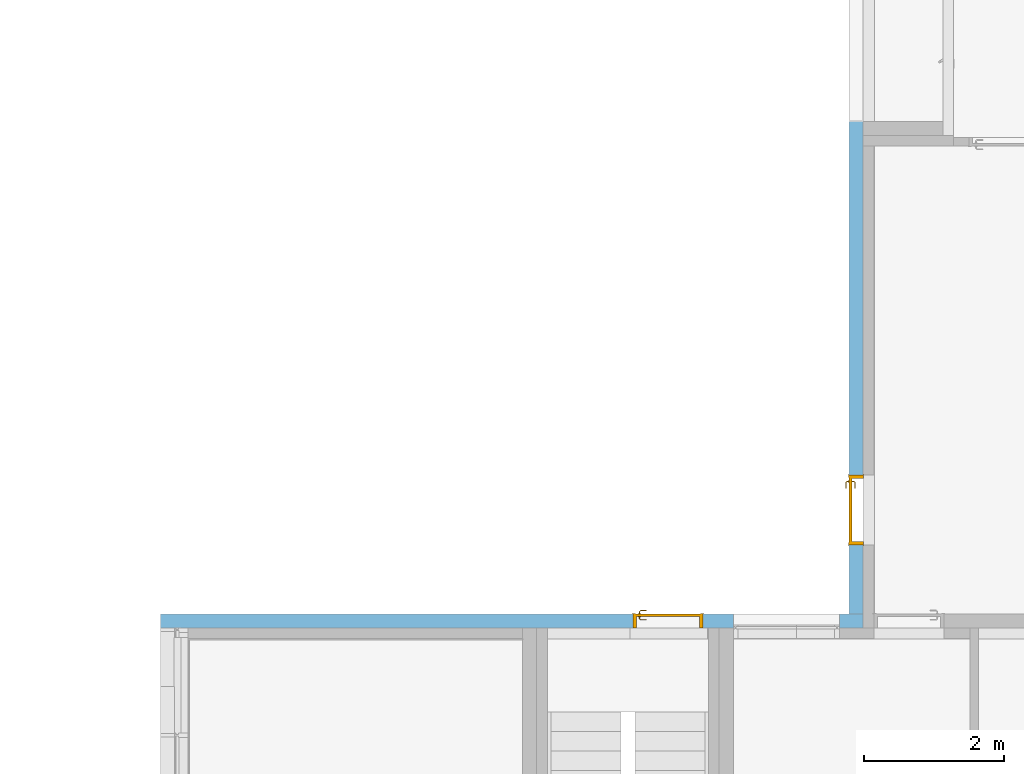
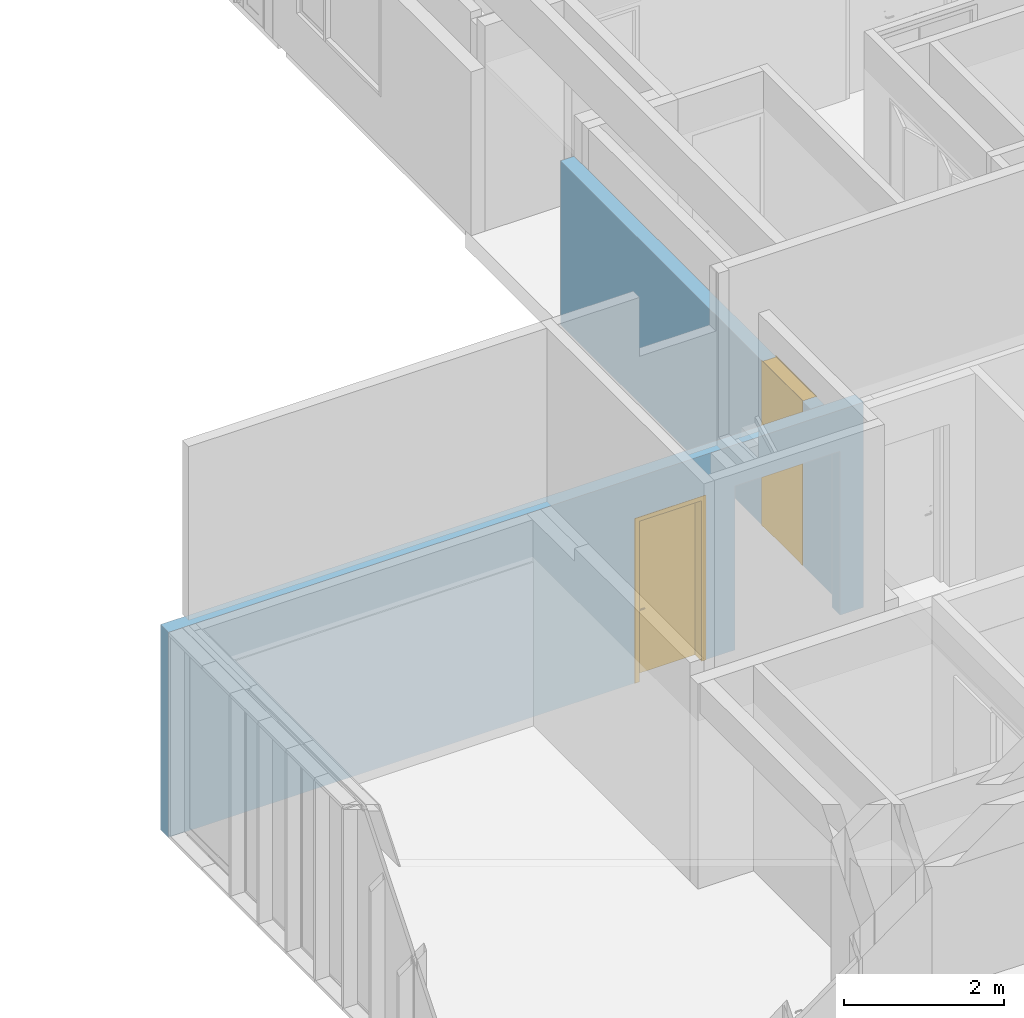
# One storey, part 187 of 240: 2 doors, 6 openings, plus 2 elements that do not belong to this part.
"""IFC2X3 building model written with IfcOpenShell, lengths in centimetres."""

from ifc_helpers import new_model, entity, si_unit, converted_unit, derived_unit, direction, frame, frame_2d, origin, place, context, subcontext, project, spatial, rectangle, extrude, faceted_brep, source, transform, mapped, material, material_list, layer, layer_set, layer_usage, type_object, type_shapes, element, fill, save


model = new_model("IFC2X3")

# Units and contexts
model_context = context("Model", 3, precision=0.001, world=origin(), true_north=direction((6.12303176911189e-17, 1.0)))
body_context = subcontext(model_context, "Body", "Model", "MODEL_VIEW")
ifc_project = project(units=[si_unit("LENGTHUNIT", "METRE", prefix="CENTI"), si_unit("AREAUNIT", "SQUARE_METRE"), si_unit("VOLUMEUNIT", "CUBIC_METRE"), converted_unit("PLANEANGLEUNIT", "DEGREE", entity("IfcRatioMeasure", 0.0174532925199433), si_unit("PLANEANGLEUNIT", "RADIAN"), dimensions=[0, 0, 0, 0, 0, 0, 0]), si_unit("MASSUNIT", "GRAM", prefix="KILO"), derived_unit("MASSDENSITYUNIT", [(si_unit("MASSUNIT", "GRAM", prefix="KILO"), 1), (si_unit("LENGTHUNIT", "METRE"), -3)]), si_unit("TIMEUNIT", "SECOND"), si_unit("FREQUENCYUNIT", "HERTZ"), si_unit("THERMODYNAMICTEMPERATUREUNIT", "DEGREE_CELSIUS"), derived_unit("THERMALTRANSMITTANCEUNIT", [(si_unit("MASSUNIT", "GRAM", prefix="KILO"), 1), (si_unit("THERMODYNAMICTEMPERATUREUNIT", "KELVIN"), -1), (si_unit("TIMEUNIT", "SECOND"), -3)]), derived_unit("VOLUMETRICFLOWRATEUNIT", [(si_unit("LENGTHUNIT", "METRE"), 3), (si_unit("TIMEUNIT", "SECOND"), -1)]), si_unit("ELECTRICCURRENTUNIT", "AMPERE"), si_unit("ELECTRICVOLTAGEUNIT", "VOLT"), si_unit("POWERUNIT", "WATT"), si_unit("FORCEUNIT", "NEWTON", prefix="KILO"), si_unit("ILLUMINANCEUNIT", "LUX"), si_unit("LUMINOUSFLUXUNIT", "LUMEN"), si_unit("LUMINOUSINTENSITYUNIT", "CANDELA"), derived_unit("USERDEFINED", [(si_unit("MASSUNIT", "GRAM", prefix="KILO"), -1), (si_unit("LENGTHUNIT", "METRE"), -2), (si_unit("TIMEUNIT", "SECOND"), 3), (si_unit("LUMINOUSFLUXUNIT", "LUMEN"), 1)]), derived_unit("LINEARVELOCITYUNIT", [(si_unit("LENGTHUNIT", "METRE"), 1), (si_unit("TIMEUNIT", "SECOND"), -1)]), si_unit("PRESSUREUNIT", "PASCAL"), derived_unit("USERDEFINED", [(si_unit("LENGTHUNIT", "METRE"), -2), (si_unit("MASSUNIT", "GRAM", prefix="KILO"), 1), (si_unit("TIMEUNIT", "SECOND"), -2)])], contexts=[model_context])

# Site, building, storey
site_placement = place(None, frame((-2781.94577612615, 7442.24238424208, 0.0)))
site = spatial("IfcSite", under=ifc_project, at=site_placement, Name="Default", CompositionType="ELEMENT")
building_placement = place(site_placement, origin())
building = spatial("IfcBuilding", under=site, at=building_placement, CompositionType="ELEMENT")
storey_placement = place(building_placement, origin())
storey = spatial("IfcBuildingStorey", under=building, at=storey_placement, Name="N00 - COO", CompositionType="ELEMENT", Elevation=0.0)

# Wall, openings, door
ifc_material_1 = material(Name="01 - Maçonnerie")
ifc_layer = layer(ifc_material_1, 20.0)
ifc_layer_set = layer_set([ifc_layer], Name="Mur de base:04 - Structure - béton - 20cm")
ifc_layer_usage_1 = layer_usage(ifc_layer_set, "AXIS2", "NEGATIVE", 10.0)
wall_type = type_object("IfcWallType", Name="Mur de base:04 - Structure - béton - 20cm", PredefinedType="STANDARD", material=ifc_layer_set)
wall_1_placement = place(building_placement, frame((-10891.6130476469, -2649.77903364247, 0.0), z_axis=(0.0, 0.0, 1.0), x_axis=(0.0, -1.0, 0.0)))
wall_1 = element("IfcWallStandardCase", 1, at=wall_1_placement, inside=storey, type_object=wall_type, material=ifc_layer_usage_1, Name="Mur de base:04 - Structure - béton - 20cm", ObjectType="Mur de base:04 - Structure - béton - 20cm", context=body_context, shape_type="SweptSolid", body=[
    extrude(rectangle(XDim=702.742772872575, YDim=19.9999999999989, at=frame_2d((351.371386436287, -4.04121180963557e-13), x_axis=(-1.0, 0.0))), origin(), (0.0, 0.0, 1.0), 249.999999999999),
])
opening_1_placement = place(wall_1_placement, origin())
element("IfcOpeningElement", 2, at=opening_1_placement, cuts=wall_1, Name="Mur de base:04 - Structure - béton - 20cm", ObjectType="Opening", context=body_context, shape_type="SweptSolid", body=[
    extrude(rectangle(XDim=175.0, YDim=144.0, at=frame_2d((-2.8421709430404e-14, 0.0), x_axis=(1.0, 0.0))), frame((-519.7, -25.2400000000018, 162.5), z_axis=(0.0, 1.0, 0.0), x_axis=(0.0, 0.0, 1.0)), (0.0, 0.0, 1.0), 50.4800000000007),
])
opening_2_placement = place(wall_1_placement, origin())
element("IfcOpeningElement", 3, at=opening_2_placement, cuts=wall_1, Name="Mur de base:04 - Structure - béton - 20cm", ObjectType="Opening", context=body_context, shape_type="SweptSolid", body=[
    extrude(rectangle(XDim=265.0, YDim=149.999999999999, at=frame_2d((0.0, -1.06581410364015e-13), x_axis=(1.0, 0.0))), frame((-814.739516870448, -10.1000000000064, 117.5), z_axis=(0.0, 1.0, 0.0), x_axis=(0.0, 0.0, -1.0)), (0.0, 0.0, 1.0), 61.2999999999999),
])
opening_3_placement = place(wall_1_placement, origin())
element("IfcOpeningElement", 4, at=opening_3_placement, cuts=wall_1, Name="Mur de base:04 - Structure - béton - 20cm", ObjectType="Opening", context=body_context, shape_type="SweptSolid", body=[
    extrude(rectangle(XDim=175.0, YDim=68.0000000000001, at=frame_2d((-2.1316282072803e-14, 0.0), x_axis=(1.0, 0.0))), frame((-625.699999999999, -142.400000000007, 162.5), z_axis=(0.0, 1.0, 0.0), x_axis=(0.0, 0.0, 1.0)), (0.0, 0.0, 1.0), 304.8),
])
opening_4_placement = place(wall_1_placement, frame((604.492546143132, 10.0, 0.0)))
opening_4 = element("IfcOpeningElement", 5, at=opening_4_placement, cuts=wall_1, Name="Int. Simple:PP EXT - Local poubelle  (0.93m x 2.50m):1", ObjectType="Opening", context=body_context, shape_type="SweptSolid", body=[
    extrude(rectangle(XDim=250.000000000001, YDim=99.9999999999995, at=frame_2d((125.000000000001, 49.9999999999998), x_axis=(1.0, 0.0))), frame((0.0, 0.0, 0.0), z_axis=(0.0, -1.0, 0.0), x_axis=(0.0, 0.0, 1.0)), (0.0, 0.0, 1.0), 20.0),
])
ifc_material_2 = material(Name="Finition Peinture - Blanc satiné")
ifc_material_3 = material(Name="Aluminium")
ifc_material_list_1 = material_list([ifc_material_2, ifc_material_3])
ifc_material_list_2 = material_list([ifc_material_2, ifc_material_3])
door_style_1 = type_object("IfcDoorStyle", Name="PP EXT - Local poubelle  (0.93m x 2.50m)", ConstructionType="NOTDEFINED", OperationType="SINGLE_SWING_LEFT", ParameterTakesPrecedence=False, Sizeable=False, material=ifc_material_list_2)
shared_shape_1 = source(origin(), body_context, "Body", "Brep", [
    faceted_brep([(10.5352761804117, -0.500000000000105, 86.6003983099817), (11.5000000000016, -0.500000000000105, 87.0), (11.5000000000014, -0.500000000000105, 108.0), (10.5352761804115, -0.500000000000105, 108.399601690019), (9.50000000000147, -0.500000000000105, 108.535898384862), (8.46472381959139, -0.500000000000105, 108.399601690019), (7.50000000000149, -0.500000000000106, 108.0), (7.50000000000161, -0.500000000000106, 87.0), (8.46472381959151, -0.500000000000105, 86.6003983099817), (9.50000000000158, -0.500000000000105, 86.464101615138), (10.5352761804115, 0.0, 108.399601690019), (11.5000000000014, 0.0, 108.0), (11.5000000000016, 0.0, 87.0), (10.5352761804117, 0.0, 86.6003983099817), (9.50000000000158, 0.0, 86.464101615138), (8.46472381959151, 0.0, 86.6003983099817), (7.50000000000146, 0.0, 87.0), (7.50000000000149, 0.0, 108.0), (8.46472381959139, 0.0, 108.399601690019), (9.50000000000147, 0.0, 108.535898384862)], [[[0, 1, 2, 3, 4, 5, 6, 7, 8, 9]], [[10, 11, 12, 13, 14, 15, 16, 17, 18, 19]], [[16, 15, 8, 7]], [[8, 15, 14, 9]], [[14, 13, 0, 9]], [[13, 12, 1, 0]], [[2, 1, 12, 11]], [[11, 10, 3, 2]], [[3, 10, 19, 4]], [[19, 18, 5, 4]], [[18, 17, 6, 5]], [[7, 6, 17, 16]]]),
    faceted_brep([(10.5352761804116, 4.0, 86.6003983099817), (11.5000000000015, 4.0, 87.0), (11.5000000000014, 4.0, 108.0), (10.5352761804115, 4.0, 108.399601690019), (9.50000000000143, 4.0, 108.535898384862), (8.46472381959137, 4.0, 108.399601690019), (7.50000000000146, 4.0, 108.0), (7.50000000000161, 4.0, 87.0), (8.46472381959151, 4.0, 86.6003983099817), (9.50000000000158, 4.0, 86.464101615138), (10.5352761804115, 4.49999999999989, 108.399601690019), (11.5000000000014, 4.49999999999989, 108.0), (11.5000000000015, 4.49999999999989, 87.0), (10.5352761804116, 4.49999999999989, 86.6003983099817), (9.50000000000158, 4.49999999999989, 86.464101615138), (8.46472381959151, 4.49999999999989, 86.6003983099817), (7.50000000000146, 4.49999999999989, 87.0), (7.50000000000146, 4.49999999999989, 108.0), (8.46472381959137, 4.49999999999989, 108.399601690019), (9.50000000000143, 4.49999999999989, 108.535898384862)], [[[0, 1, 2, 3, 4, 5, 6, 7, 8, 9]], [[10, 11, 12, 13, 14, 15, 16, 17, 18, 19]], [[11, 10, 3, 2]], [[3, 10, 19, 4]], [[19, 18, 5, 4]], [[18, 17, 6, 5]], [[7, 6, 17, 16]], [[16, 15, 8, 7]], [[8, 15, 14, 9]], [[14, 13, 0, 9]], [[13, 12, 1, 0]], [[2, 1, 12, 11]]]),
    faceted_brep([(9.29747013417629, -0.500000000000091, 100.778044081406), (9.70252986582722, -0.500000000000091, 100.778044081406), (10.1000000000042, -0.500000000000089, 100.699999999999), (10.1000000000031, -0.500000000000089, 99.3000000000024), (9.7025298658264, -0.500000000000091, 99.2219559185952), (9.29747013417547, -0.500000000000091, 99.221955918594), (8.8999999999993, -0.500000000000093, 99.2999999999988), (8.89999999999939, -0.500000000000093, 100.7), (8.89999999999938, -3.26509507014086, 100.7), (9.29747013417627, -3.10045754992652, 100.778044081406), (10.9023585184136, -4.70534593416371, 100.778044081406), (11.0701397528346, -4.30028620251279, 100.778044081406), (9.7025298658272, -2.93267631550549, 100.778044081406), (10.1000000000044, -2.76803879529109, 100.7), (10.1000000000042, -2.76803879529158, 99.3000000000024), (9.7025298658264, -2.93267631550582, 99.2219559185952), (11.0701397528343, -4.30028620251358, 99.2219559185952), (10.9023585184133, -4.70534593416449, 99.221955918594), (9.29747013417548, -3.10045754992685, 99.221955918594), (8.89999999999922, -3.26509507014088, 99.2999999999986), (10.7377209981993, -5.10281606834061, 100.7), (11.2347772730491, -3.90281606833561, 100.7), (11.2347772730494, -3.90281606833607, 99.3000000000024), (10.7377209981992, -5.10281606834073, 99.2999999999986), (19.5018640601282, -5.1028160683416, 99.2999999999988), (19.5018640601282, -4.70534593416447, 99.221955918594), (19.5018640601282, -4.30028620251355, 99.2219559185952), (19.5018640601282, -3.90281606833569, 99.3000000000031), (19.5018640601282, -3.90281606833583, 100.7), (19.5018640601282, -4.30028620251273, 100.778044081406), (19.5018640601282, -4.70534593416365, 100.778044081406), (19.5018640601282, -5.10281606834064, 100.699999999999), (14.7307697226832, -5.10281606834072, 100.7), (15.2860019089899, -4.5028160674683, 100.78786867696), (15.3683206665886, -3.9028160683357, 100.7), (15.3683206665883, -3.90281606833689, 99.3000000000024), (15.2860018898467, -4.50281607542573, 99.2121313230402), (14.7307700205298, -5.10281606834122, 99.2999999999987)], [[[0, 1, 2, 3, 4, 5, 6, 7]], [[8, 9, 0, 7]], [[9, 10, 11, 12, 1, 0]], [[12, 13, 2, 1]], [[3, 2, 13, 14]], [[14, 15, 4, 3]], [[15, 16, 17, 18, 5, 4]], [[18, 19, 6, 5]], [[7, 6, 19, 8]], [[20, 10, 9, 8]], [[11, 21, 13, 12]], [[14, 13, 21, 22]], [[22, 16, 15, 14]], [[17, 23, 19, 18]], [[8, 19, 23, 20]], [[24, 25, 26, 27, 28, 29, 30, 31]], [[32, 30, 33]], [[31, 30, 32]], [[10, 20, 32]], [[33, 34, 11]], [[21, 11, 34]], [[34, 29, 28]], [[30, 29, 33]], [[29, 34, 33]], [[10, 32, 33]], [[10, 33, 11]], [[22, 21, 34, 28, 27, 35]], [[35, 26, 36]], [[37, 36, 25]], [[22, 35, 16]], [[35, 27, 26]], [[24, 37, 25]], [[23, 17, 37]], [[37, 17, 36]], [[17, 16, 36]], [[16, 35, 36]], [[25, 36, 26]], [[20, 23, 37, 24, 31, 32]]]),
    faceted_brep([(9.29747013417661, 4.49999999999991, 100.778044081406), (8.89999999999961, 4.4999999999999, 100.7), (8.89999999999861, 4.4999999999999, 99.2999999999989), (9.29747013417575, 4.49999999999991, 99.221955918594), (9.70252986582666, 4.49999999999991, 99.2219559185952), (10.1000000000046, 4.49999999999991, 99.3000000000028), (10.1000000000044, 4.49999999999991, 100.7), (9.70252986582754, 4.49999999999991, 100.778044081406), (10.1000000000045, 6.7485204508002, 99.3000000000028), (10.1000000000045, 6.74852045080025, 100.7), (9.70252986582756, 6.91315797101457, 100.778044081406), (11.083890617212, 8.29451872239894, 100.778044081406), (10.916109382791, 8.69957845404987, 100.778044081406), (9.29747013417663, 7.0809392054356, 100.778044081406), (8.89999999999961, 7.24557672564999, 100.7), (8.89999999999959, 7.2455767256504, 99.2999999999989), (9.29747013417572, 7.08093920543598, 99.221955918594), (10.9161093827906, 8.69957845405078, 99.221955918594), (11.0838906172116, 8.29451872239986, 99.2219559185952), (9.70252986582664, 6.91315797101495, 99.2219559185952), (11.2485281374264, 7.89704858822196, 99.3000000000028), (11.2485281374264, 7.89704858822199, 100.7), (10.7514718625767, 9.09704858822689, 100.7), (10.7514718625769, 9.0970485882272, 99.2999999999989), (19.5045783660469, 7.89704858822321, 99.3000000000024), (19.5045783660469, 8.29451872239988, 99.2219559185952), (19.5045783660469, 8.6995784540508, 99.221955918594), (19.5045783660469, 9.09704858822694, 99.2999999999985), (19.5045783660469, 9.09704858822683, 100.7), (19.5045783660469, 8.69957845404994, 100.778044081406), (19.5045783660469, 8.29451872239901, 100.778044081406), (19.5045783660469, 7.89704858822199, 100.7), (15.3765520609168, 7.89704858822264, 99.3000000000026), (15.3765532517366, 7.89704858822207, 100.7), (15.294234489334, 8.49704858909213, 100.78786867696), (14.7445205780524, 9.09704858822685, 100.7), (14.7445204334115, 9.09704858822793, 99.2999999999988), (15.2942345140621, 8.49704858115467, 99.2121313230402)], [[[0, 1, 2, 3, 4, 5, 6, 7]], [[6, 5, 8, 9]], [[9, 10, 7, 6]], [[10, 11, 12, 13, 0, 7]], [[13, 14, 1, 0]], [[2, 1, 14, 15]], [[15, 16, 3, 2]], [[16, 17, 18, 19, 4, 3]], [[19, 8, 5, 4]], [[9, 8, 20, 21]], [[21, 11, 10, 9]], [[12, 22, 14, 13]], [[15, 14, 22, 23]], [[23, 17, 16, 15]], [[18, 20, 8, 19]], [[24, 25, 26, 27, 28, 29, 30, 31]], [[21, 20, 32, 24, 31, 33]], [[33, 30, 34]], [[35, 34, 29]], [[21, 33, 11]], [[33, 31, 30]], [[28, 35, 29]], [[22, 12, 35]], [[35, 12, 34]], [[12, 11, 34]], [[11, 33, 34]], [[29, 34, 30]], [[22, 35, 28, 27, 36, 23]], [[36, 26, 37]], [[27, 26, 36]], [[17, 23, 36]], [[37, 32, 18]], [[20, 18, 32]], [[32, 25, 24]], [[26, 25, 37]], [[25, 32, 37]], [[17, 36, 37]], [[17, 37, 18]]]),
    faceted_brep([(3.50000000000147, 4.0, 246.5), (96.5000000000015, 4.0, 246.5), (96.5000000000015, 4.0, 0.0), (3.50000000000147, 4.0, 0.0), (3.50000000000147, 0.0, 246.5), (3.50000000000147, 0.0, 0.0), (96.5000000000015, 0.0, 0.0), (96.5000000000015, 0.0, 246.5)], [[[0, 1, 2, 3]], [[4, 5, 6, 7]], [[1, 0, 4, 7]], [[2, 1, 7, 6]], [[3, 2, 6, 5]], [[0, 3, 5, 4]]]),
    faceted_brep([(0.0, 20.0, 0.0), (-1.50000000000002, 20.0, 0.0), (-1.50000000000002, 20.5000000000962, 0.0), (5.0, 20.5000000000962, 0.0), (5.0, 4.0, 0.0), (3.50000000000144, 4.0, 0.0), (3.50000000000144, -0.500000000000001, 0.0), (-1.50000000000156, -0.500000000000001, 0.0), (-1.50000000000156, 0.0, 0.0), (0.0, 0.0, 0.0), (0.0, 20.0, 250.0), (100.0, 20.0, 250.0), (100.0, 20.0, 0.0), (101.5, 20.0, 0.0), (101.5, 20.0, 251.500000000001), (-1.50000000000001, 20.0, 251.500000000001), (-1.50000000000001, 20.5000000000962, 251.500000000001), (101.5, 20.5000000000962, 251.500000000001), (101.5, 20.5000000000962, 0.0), (95.0, 20.5000000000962, 0.0), (95.0, 20.5000000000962, 245.0), (5.0, 20.5000000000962, 245.0), (5.0, 4.0, 245.0), (95.0, 4.0, 245.0), (95.0, 4.0, 0.0), (96.499999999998, 4.0, 0.0), (96.499999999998, 4.0, 246.5), (3.50000000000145, 4.0, 246.5), (3.50000000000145, -0.500000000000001, 246.5), (96.499999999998, -0.500000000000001, 246.5), (96.499999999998, -0.500000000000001, 0.0), (101.500000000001, -0.500000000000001, 0.0), (101.500000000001, -0.500000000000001, 251.500000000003), (-1.50000000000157, -0.500000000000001, 251.500000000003), (-1.50000000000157, 0.0, 251.500000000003), (101.500000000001, 0.0, 251.500000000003), (101.500000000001, 0.0, 0.0), (100.0, 0.0, 0.0), (100.0, 0.0, 250.0), (0.0, 0.0, 250.0)], [[[0, 1, 2, 3, 4, 5, 6, 7, 8, 9]], [[1, 0, 10, 11, 12, 13, 14, 15]], [[2, 1, 15, 16]], [[3, 2, 16, 17, 18, 19, 20, 21]], [[3, 21, 22, 4]], [[5, 4, 22, 23, 24, 25, 26, 27]], [[5, 27, 28, 6]], [[7, 6, 28, 29, 30, 31, 32, 33]], [[8, 7, 33, 34]], [[9, 8, 34, 35, 36, 37, 38, 39]], [[0, 9, 39, 10]], [[11, 38, 37, 12]], [[12, 37, 36, 31, 30, 25, 24, 19, 18, 13]], [[17, 14, 13, 18]], [[23, 20, 19, 24]], [[29, 26, 25, 30]], [[35, 32, 31, 36]], [[16, 15, 14, 17]], [[22, 21, 20, 23]], [[28, 27, 26, 29]], [[34, 33, 32, 35]], [[10, 39, 38, 11]]]),
])
type_shapes(door_style_1, [shared_shape_1])
door_1_placement = place(opening_4_placement, frame((-100.0, -20.0, 0.0)))
door_1 = element("IfcDoor", 6, at=door_1_placement, inside=storey, type_object=door_style_1, material=ifc_material_list_1, Name="Int. Simple:PP EXT - Local poubelle  (0.93m x 2.50m)", ObjectType="Int. Simple:PP EXT - Local poubelle  (0.93m x 2.50m)", OverallHeight=250.000000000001, OverallWidth=99.9999999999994, context=body_context, shape_type="MappedRepresentation", body=[
    mapped(shared_shape_1, transform((0.0, 0.0, 0.0), scale=1.0)),
])
fill(opening_4, door_1)

ifc_layer_usage_2 = layer_usage(ifc_layer_set, "AXIS2", "NEGATIVE", 10.0)
wall_2_placement = place(building_placement, frame((-10881.6130476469, -3362.52180651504, 0.0), z_axis=(0.0, 0.0, 1.0), x_axis=(-1.0, 0.0, 0.0)))
wall_2 = element("IfcWallStandardCase", 7, at=wall_2_placement, inside=storey, type_object=wall_type, material=ifc_layer_usage_2, Name="Mur de base:04 - Structure - béton - 20cm", ObjectType="Mur de base:04 - Structure - béton - 20cm", context=body_context, shape_type="SweptSolid", body=[
    extrude(rectangle(XDim=1002.53614081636, YDim=19.9999999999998, at=frame_2d((501.268070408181, -1.09245945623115e-13), x_axis=(-1.0, 0.0))), origin(), (0.0, 0.0, 1.0), 313.000000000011),
])
opening_5_placement = place(wall_2_placement, origin())
element("IfcOpeningElement", 8, at=opening_5_placement, cuts=wall_2, Name="Mur de base:04 - Structure - béton - 20cm", ObjectType="Opening", context=body_context, shape_type="SweptSolid", body=[
    extrude(rectangle(XDim=250.0, YDim=151.269760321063, at=frame_2d((-8.66862137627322e-13, 0.0), x_axis=(0.0, 1.0))), frame((109.634880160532, -25.2399999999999, 125.0), z_axis=(0.0, 1.0, 0.0), x_axis=(-1.0, 0.0, 0.0)), (0.0, 0.0, 1.0), 50.4800000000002),
])
opening_6_placement = place(wall_2_placement, frame((328.569760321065, 10.0, 0.0)))
opening_6 = element("IfcOpeningElement", 9, at=opening_6_placement, cuts=wall_2, Name="Int. Simple:PP EXT - Local poubelle  (0.93m x 2.50m):1", ObjectType="Opening", context=body_context, shape_type="SweptSolid", body=[
    extrude(rectangle(XDim=250.000000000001, YDim=99.9999999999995, at=frame_2d((125.000000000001, 49.9999999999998), x_axis=(1.0, 0.0))), frame((0.0, 0.0, 0.0), z_axis=(0.0, -1.0, 0.0), x_axis=(0.0, 0.0, 1.0)), (0.0, 0.0, 1.0), 20.0),
])
ifc_material_list_3 = material_list([ifc_material_2, ifc_material_3])
ifc_material_list_4 = material_list([ifc_material_2, ifc_material_3])
door_style_2 = type_object("IfcDoorStyle", Name="PP EXT - Local poubelle  (0.93m x 2.50m)", ConstructionType="NOTDEFINED", OperationType="SINGLE_SWING_RIGHT", ParameterTakesPrecedence=False, Sizeable=False, material=ifc_material_list_4)
shared_shape_2 = source(origin(), body_context, "Body", "Brep", [
    faceted_brep([(99.5000000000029, -0.500000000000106, 87.0), (99.5000000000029, -0.500000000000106, 108.0), (98.535276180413, -0.500000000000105, 108.399601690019), (97.5000000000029, -0.500000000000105, 108.535898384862), (96.4647238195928, -0.500000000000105, 108.399601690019), (95.500000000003, -0.500000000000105, 108.0), (95.5000000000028, -0.500000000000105, 87.0), (96.4647238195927, -0.500000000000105, 86.6003983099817), (97.5000000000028, -0.500000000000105, 86.464101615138), (98.5352761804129, -0.500000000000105, 86.6003983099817), (99.5000000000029, 0.0, 108.0), (99.5000000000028, 0.0, 87.0), (98.5352761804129, 0.0, 86.6003983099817), (97.5000000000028, 0.0, 86.464101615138), (96.4647238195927, 0.0, 86.6003983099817), (95.5000000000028, 0.0, 87.0), (95.5000000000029, 0.0, 108.0), (96.4647238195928, 0.0, 108.399601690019), (97.5000000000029, 0.0, 108.535898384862), (98.535276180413, 0.0, 108.399601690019)], [[[0, 1, 2, 3, 4, 5, 6, 7, 8, 9]], [[10, 11, 12, 13, 14, 15, 16, 17, 18, 19]], [[9, 12, 11, 0]], [[8, 13, 12, 9]], [[7, 14, 13, 8]], [[7, 6, 15, 14]], [[15, 6, 5, 16]], [[4, 17, 16, 5]], [[3, 18, 17, 4]], [[2, 19, 18, 3]], [[2, 1, 10, 19]], [[11, 10, 1, 0]]]),
    faceted_brep([(99.5000000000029, 4.0, 87.0), (99.5000000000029, 4.0, 108.0), (98.535276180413, 4.0, 108.399601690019), (97.5000000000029, 4.0, 108.535898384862), (96.4647238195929, 4.0, 108.399601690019), (95.500000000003, 4.0, 108.0), (95.5000000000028, 4.0, 87.0), (96.4647238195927, 4.0, 86.6003983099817), (97.5000000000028, 4.0, 86.464101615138), (98.5352761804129, 4.0, 86.6003983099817), (97.5000000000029, 4.49999999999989, 108.535898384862), (98.535276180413, 4.49999999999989, 108.399601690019), (99.5000000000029, 4.49999999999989, 108.0), (99.5000000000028, 4.49999999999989, 87.0), (98.5352761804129, 4.49999999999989, 86.6003983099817), (97.5000000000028, 4.49999999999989, 86.464101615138), (96.4647238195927, 4.49999999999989, 86.6003983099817), (95.5000000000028, 4.49999999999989, 87.0), (95.500000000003, 4.49999999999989, 108.0), (96.4647238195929, 4.49999999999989, 108.399601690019)], [[[0, 1, 2, 3, 4, 5, 6, 7, 8, 9]], [[10, 11, 12, 13, 14, 15, 16, 17, 18, 19]], [[4, 19, 18, 5]], [[3, 10, 19, 4]], [[2, 11, 10, 3]], [[2, 1, 12, 11]], [[13, 12, 1, 0]], [[9, 14, 13, 0]], [[8, 15, 14, 9]], [[7, 16, 15, 8]], [[7, 6, 17, 16]], [[17, 6, 5, 18]]]),
    faceted_brep([(97.2974701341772, -0.500000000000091, 100.778044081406), (97.7025298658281, -0.500000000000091, 100.778044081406), (98.1000000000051, -0.500000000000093, 100.699999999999), (98.100000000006, -0.500000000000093, 99.2999999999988), (97.7025298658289, -0.500000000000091, 99.221955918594), (97.297470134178, -0.500000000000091, 99.2219559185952), (96.9000000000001, -0.500000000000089, 99.3000000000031), (96.9000000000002, -0.500000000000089, 100.7), (97.7025298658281, -3.10045754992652, 100.778044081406), (98.1000000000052, -3.26509507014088, 100.7), (97.2974701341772, -2.93267631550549, 100.778044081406), (95.9298602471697, -4.30028620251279, 100.778044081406), (96.0976414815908, -4.70534593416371, 100.778044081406), (96.9000000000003, -2.76803879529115, 100.7), (96.9000000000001, -2.76803879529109, 99.3000000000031), (97.297470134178, -2.93267631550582, 99.2219559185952), (97.7025298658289, -3.10045754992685, 99.221955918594), (96.0976414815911, -4.70534593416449, 99.221955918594), (95.9298602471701, -4.30028620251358, 99.2219559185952), (98.100000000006, -3.26509507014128, 99.2999999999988), (96.2622790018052, -5.1028160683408, 100.7), (95.7652227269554, -3.90281606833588, 100.7), (95.7652227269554, -3.90281606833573, 99.3000000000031), (96.2622790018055, -5.10281606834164, 99.2999999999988), (87.4981359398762, -5.10281606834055, 100.7), (87.4981359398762, -4.70534593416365, 100.778044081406), (87.4981359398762, -4.30028620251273, 100.778044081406), (87.4981359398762, -3.90281606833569, 100.699999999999), (87.4981359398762, -3.90281606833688, 99.3000000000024), (87.4981359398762, -4.30028620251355, 99.2219559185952), (87.4981359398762, -4.70534593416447, 99.221955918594), (87.4981359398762, -5.10281606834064, 99.2999999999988), (91.7139980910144, -4.5028160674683, 100.78786867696), (92.2692302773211, -5.1028160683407, 100.7), (91.6316793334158, -3.9028160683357, 100.7), (91.631679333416, -3.90281606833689, 99.3000000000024), (91.7139981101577, -4.50281607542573, 99.2121313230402), (92.2692310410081, -5.10281606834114, 99.2999999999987)], [[[0, 1, 2, 3, 4, 5, 6, 7]], [[2, 1, 8, 9]], [[1, 0, 10, 11, 12, 8]], [[0, 7, 13, 10]], [[14, 13, 7, 6]], [[5, 15, 14, 6]], [[5, 4, 16, 17, 18, 15]], [[3, 19, 16, 4]], [[9, 19, 3, 2]], [[9, 8, 12, 20]], [[10, 13, 21, 11]], [[22, 21, 13, 14]], [[14, 15, 18, 22]], [[16, 19, 23, 17]], [[20, 23, 19, 9]], [[24, 25, 26, 27, 28, 29, 30, 31]], [[32, 25, 33]], [[33, 25, 24]], [[33, 20, 12]], [[11, 34, 32]], [[34, 11, 21]], [[27, 26, 34]], [[32, 26, 25]], [[32, 34, 26]], [[32, 33, 12]], [[11, 32, 12]], [[21, 22, 35, 28, 27, 34]], [[36, 29, 35]], [[30, 36, 37]], [[18, 35, 22]], [[29, 28, 35]], [[30, 37, 31]], [[37, 17, 23]], [[36, 17, 37]], [[36, 18, 17]], [[36, 35, 18]], [[29, 36, 30]], [[23, 20, 33, 24, 31, 37]]]),
    faceted_brep([(97.2974701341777, 4.49999999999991, 99.2219559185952), (97.7025298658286, 4.49999999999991, 99.221955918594), (98.1000000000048, 4.4999999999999, 99.2999999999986), (98.1000000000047, 4.4999999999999, 100.7), (97.7025298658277, 4.49999999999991, 100.778044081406), (97.2974701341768, 4.49999999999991, 100.778044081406), (96.8999999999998, 4.49999999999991, 100.7), (96.900000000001, 4.49999999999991, 99.3000000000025), (96.8999999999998, 6.7485204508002, 100.7), (96.8999999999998, 6.74852045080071, 99.3000000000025), (97.2974701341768, 6.91315797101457, 100.778044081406), (97.7025298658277, 7.0809392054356, 100.778044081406), (96.0838906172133, 8.69957845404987, 100.778044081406), (95.9161093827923, 8.29451872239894, 100.778044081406), (98.1000000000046, 7.24557672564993, 100.7), (98.1000000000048, 7.24557672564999, 99.2999999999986), (97.7025298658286, 7.08093920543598, 99.221955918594), (97.2974701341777, 6.91315797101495, 99.2219559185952), (95.9161093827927, 8.29451872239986, 99.2219559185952), (96.0838906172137, 8.69957845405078, 99.221955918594), (95.751471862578, 7.89704858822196, 100.7), (95.7514718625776, 7.89704858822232, 99.3000000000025), (96.2485281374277, 9.09704858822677, 100.7), (96.2485281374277, 9.09704858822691, 99.2999999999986), (87.4954216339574, 8.29451872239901, 100.778044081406), (87.4954216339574, 8.69957845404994, 100.778044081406), (87.4954216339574, 9.09704858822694, 100.7), (87.4954216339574, 9.09704858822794, 99.2999999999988), (87.4954216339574, 8.6995784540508, 99.221955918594), (87.4954216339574, 8.29451872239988, 99.2219559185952), (87.4954216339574, 7.89704858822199, 99.3000000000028), (87.4954216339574, 7.89704858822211, 100.7), (91.6234467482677, 7.89704858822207, 100.7), (91.6234479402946, 7.89704858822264, 99.3000000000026), (91.7057655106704, 8.49704858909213, 100.78786867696), (92.255479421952, 9.09704858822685, 100.7), (92.2554795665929, 9.09704858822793, 99.2999999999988), (91.7057654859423, 8.49704858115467, 99.2121313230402)], [[[0, 1, 2, 3, 4, 5, 6, 7]], [[8, 9, 7, 6]], [[5, 10, 8, 6]], [[5, 4, 11, 12, 13, 10]], [[3, 14, 11, 4]], [[14, 3, 2, 15]], [[2, 1, 16, 15]], [[1, 0, 17, 18, 19, 16]], [[0, 7, 9, 17]], [[20, 21, 9, 8]], [[8, 10, 13, 20]], [[14, 22, 12, 11]], [[23, 22, 14, 15]], [[15, 16, 19, 23]], [[17, 9, 21, 18]], [[24, 25, 26, 27, 28, 29, 30, 31]], [[21, 20, 32, 31, 30, 33]], [[34, 24, 32]], [[25, 34, 35]], [[13, 32, 20]], [[24, 31, 32]], [[25, 35, 26]], [[35, 12, 22]], [[34, 12, 35]], [[34, 13, 12]], [[34, 32, 13]], [[24, 34, 25]], [[22, 23, 36, 27, 26, 35]], [[37, 28, 36]], [[36, 28, 27]], [[36, 23, 19]], [[18, 33, 37]], [[33, 18, 21]], [[30, 29, 33]], [[37, 29, 28]], [[37, 33, 29]], [[37, 36, 19]], [[18, 37, 19]]]),
    faceted_brep([(103.500000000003, 4.0, 246.5), (103.500000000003, 4.0, 0.0), (10.5000000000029, 4.0, 0.0), (10.5000000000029, 4.0, 246.5), (103.500000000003, 0.0, 246.5), (10.5000000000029, 0.0, 246.5), (10.5000000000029, 0.0, 0.0), (103.500000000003, 0.0, 0.0)], [[[0, 1, 2, 3]], [[4, 5, 6, 7]], [[3, 5, 4, 0]], [[2, 6, 5, 3]], [[1, 7, 6, 2]], [[0, 4, 7, 1]]]),
    faceted_brep([(107.0, 20.0, 0.0), (107.0, 0.0, 0.0), (108.500000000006, 0.0, 0.0), (108.500000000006, -0.500000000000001, 0.0), (103.500000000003, -0.500000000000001, 0.0), (103.500000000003, 4.0, 0.0), (102.0, 4.0, 0.0), (102.0, 20.5000000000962, 0.0), (108.500000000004, 20.5000000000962, 0.0), (108.500000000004, 20.0, 0.0), (108.500000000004, 20.0, 251.500000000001), (5.50000000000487, 20.0, 251.500000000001), (5.50000000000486, 20.0, 0.0), (7.0, 20.0, 0.0), (7.0, 20.0, 250.0), (107.0, 20.0, 250.0), (108.500000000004, 20.5000000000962, 251.500000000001), (102.0, 20.5000000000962, 245.0), (12.0, 20.5000000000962, 245.0), (12.0, 20.5000000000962, 0.0), (5.50000000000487, 20.5000000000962, 0.0), (5.50000000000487, 20.5000000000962, 251.500000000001), (102.0, 4.0, 245.0), (103.500000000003, 4.0, 246.5), (10.5000000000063, 4.0, 246.5), (10.5000000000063, 4.0, 0.0), (12.0, 4.0, 0.0), (12.0, 4.0, 245.0), (103.500000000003, -0.500000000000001, 246.5), (108.500000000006, -0.500000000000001, 251.500000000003), (5.5000000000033, -0.500000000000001, 251.500000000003), (5.50000000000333, -0.500000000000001, 0.0), (10.5000000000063, -0.500000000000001, 0.0), (10.5000000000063, -0.500000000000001, 246.5), (108.500000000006, 0.0, 251.500000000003), (107.0, 0.0, 250.0), (7.0, 0.0, 250.0), (7.0, 0.0, 0.0), (5.5000000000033, 0.0, 0.0), (5.50000000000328, 0.0, 251.500000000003)], [[[0, 1, 2, 3, 4, 5, 6, 7, 8, 9]], [[9, 10, 11, 12, 13, 14, 15, 0]], [[8, 16, 10, 9]], [[7, 17, 18, 19, 20, 21, 16, 8]], [[7, 6, 22, 17]], [[5, 23, 24, 25, 26, 27, 22, 6]], [[5, 4, 28, 23]], [[3, 29, 30, 31, 32, 33, 28, 4]], [[2, 34, 29, 3]], [[1, 35, 36, 37, 38, 39, 34, 2]], [[0, 15, 35, 1]], [[14, 13, 37, 36]], [[13, 12, 20, 19, 26, 25, 32, 31, 38, 37]], [[21, 20, 12, 11]], [[27, 26, 19, 18]], [[33, 32, 25, 24]], [[39, 38, 31, 30]], [[16, 21, 11, 10]], [[22, 27, 18, 17]], [[28, 33, 24, 23]], [[34, 39, 30, 29]], [[15, 14, 36, 35]]]),
])
type_shapes(door_style_2, [shared_shape_2])
door_2_placement = place(opening_6_placement, frame((-107.0, -20.0, 0.0)))
door_2 = element("IfcDoor", 10, at=door_2_placement, inside=storey, type_object=door_style_2, material=ifc_material_list_3, Name="Int. Simple:PP EXT - Local poubelle  (0.93m x 2.50m)", ObjectType="Int. Simple:PP EXT - Local poubelle  (0.93m x 2.50m)", OverallHeight=250.000000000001, OverallWidth=99.9999999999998, context=body_context, shape_type="MappedRepresentation", body=[
    mapped(shared_shape_2, transform((0.0, 0.0, 0.0), scale=1.0)),
])
fill(opening_6, door_2)

save(model, "model.ifc")
